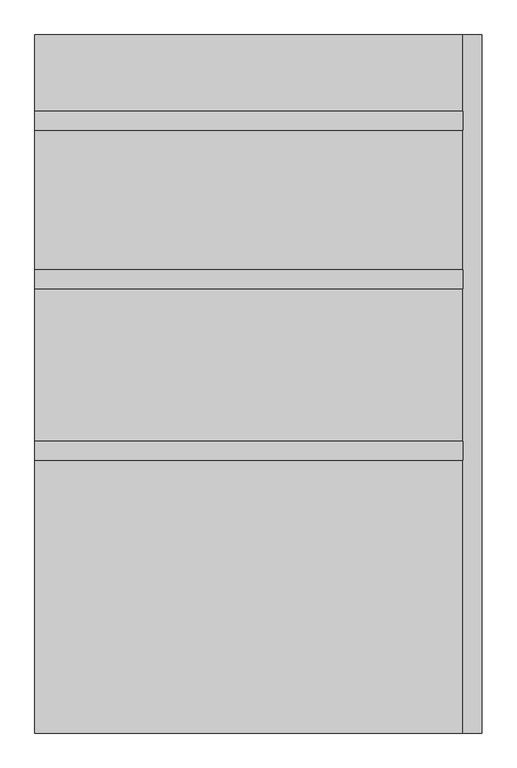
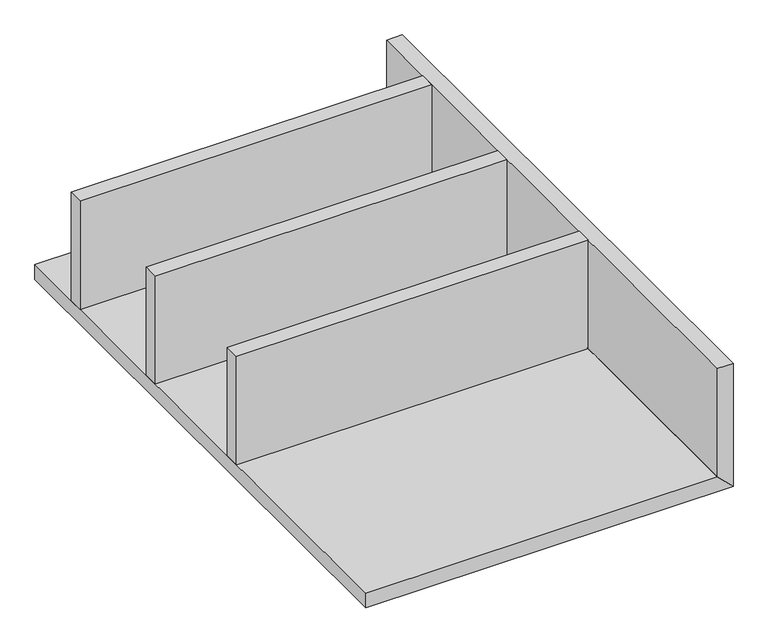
"""IFC4 building model written with IfcOpenShell, lengths in millimetres: proxy geometry, FOUNDATION^PO5_CORNER SHELVES LT-PARTS SOLID."""

from ifc_helpers import new_model, si_unit, frame, origin, place, context, project, spatial, polyline, outline, extrude, source, transform, mapped, element, save


def generic_models_b7e8ac60(model_context):
    return source(origin(), model_context, "Body", "SweptSolid", [
        extrude(outline(polyline([(857.25, 584.2), (857.25, 546.1), (0.0, 546.1), (0.0, 584.2), (857.25, 584.2)])), frame((0.0, 0.0, 38.1), z_axis=(0.0, 0.0, 1.0), x_axis=(1.0, 0.0, 0.0)), (0.0, 0.0, 1.0), 279.4),
        extrude(outline(polyline([(857.25, 1244.6), (857.25, 1206.5), (0.0, 1206.5), (0.0, 1244.6), (857.25, 1244.6)])), frame((0.0, 0.0, 38.1), z_axis=(0.0, 0.0, 1.0), x_axis=(1.0, 0.0, 0.0)), (0.0, 0.0, 1.0), 279.4),
        extrude(outline(polyline([(857.25, 927.1), (857.25, 889.0), (0.0, 889.0), (0.0, 927.1), (857.25, 927.1)])), frame((0.0, 0.0, 38.1), z_axis=(0.0, 0.0, 1.0), x_axis=(1.0, 0.0, 0.0)), (0.0, 0.0, 1.0), 279.4),
        extrude(outline(polyline([(0.0, 895.35), (38.1, 857.25), (38.1, 0.0), (0.0, 0.0), (0.0, 895.35)])), frame((0.0, 0.0, 0.0), z_axis=(0.0, 1.0, 0.0), x_axis=(0.0, 0.0, 1.0)), (0.0, 0.0, 1.0), 1397.0),
        extrude(outline(polyline([(38.1, 857.25), (0.0, 895.35), (317.5, 895.35), (317.5, 857.25), (38.1, 857.25)])), frame((0.0, 0.0, 0.0), z_axis=(0.0, 1.0, 0.0), x_axis=(0.0, 0.0, 1.0)), (0.0, 0.0, 1.0), 1397.0),
    ])


if __name__ == "__main__":
    model = new_model("IFC4")
    model_context = context("Model", 3, world=origin())
    ifc_project = project(units=[si_unit("LENGTHUNIT", "METRE", prefix="MILLI")], contexts=[model_context])
    site = spatial("IfcSite", under=ifc_project)
    building = spatial("IfcBuilding", under=site)
    placement = place(None, origin())
    generic_models_shape = generic_models_b7e8ac60(model_context)
    element("IfcBuildingElementProxy", 1, Name="FOUNDATION^PO5_CORNER SHELVES LT-PARTS SOLID", ObjectType="FOUNDATION^PO5_CORNER SHELVES LT-PARTS SOLID", at=placement, inside=building, context=model_context, shape_type="MappedRepresentation", body=[
        mapped(generic_models_shape, transform((0.0, 0.0, 0.0), x_axis=(1.0, 0.0, 0.0), y_axis=(0.0, 1.0, 0.0), z_axis=(0.0, 0.0, 1.0))),
    ])
    save(model, "model.ifc")
